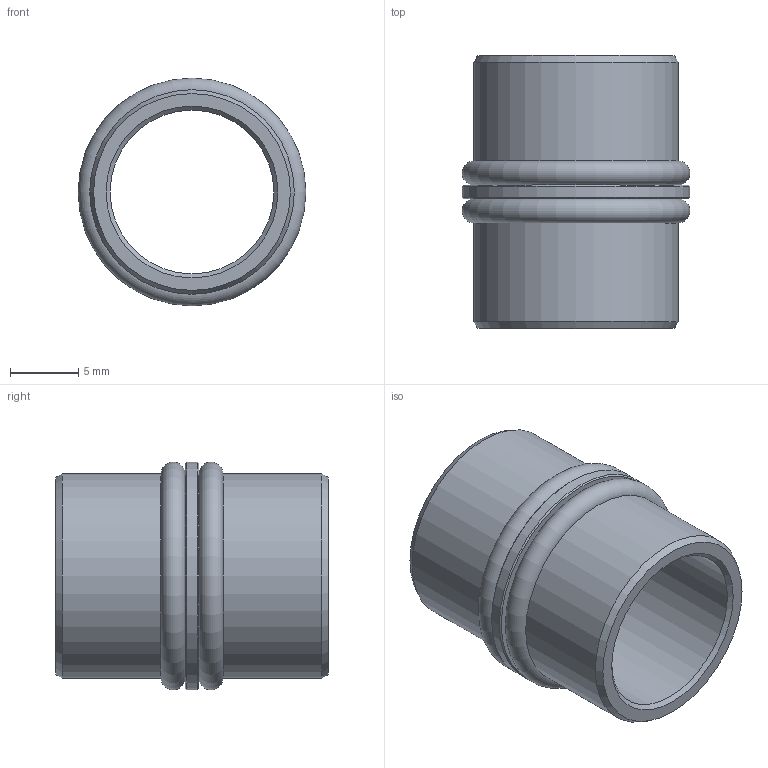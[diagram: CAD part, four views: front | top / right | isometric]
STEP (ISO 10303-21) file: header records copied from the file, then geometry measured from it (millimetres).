
FILE_DESCRIPTION(/* description */ ('BUSSOLA INTERBASE DI TENUTA'),/* implementation_level */ '2;1');
FILE_NAME(/* name */ 'I:\Area Tecnica\Disegni\VARIE-3D\Componenti\T400\T424\T424_30.stp',/* time_stamp */ '2015-09-23T13:45:55+02:00',/* author */ ('maniean1'),/* organization */ ('Pneumax S.p.A.'),/* preprocessor_version */ 'ST-DEVELOPER v15.2',/* originating_system */ 'Autodesk Inventor 2014',/* authorisation */ '');
FILE_SCHEMA (('AUTOMOTIVE_DESIGN { 1 0 10303 214 3 1 1 }'));
Length unit declared in the file: millimetre
Products named in the file (1): T424_30
Bounding box: 16.7 x 20 x 16.7 mm (x, y, z)
Volume: 1419.8 mm3; surface area: 1988.4 mm2
Topology: 1 solids, 1 shells, 16 faces, 28 edges, 16 vertices
Faces by surface type: cone 6, cylinder 4, plane 4, torus 2
Full cylindrical faces by diameter (mm): 12 x1, 15 x2, 16.7 x1
Entity records: 361 total; most frequent: DIRECTION 66, CARTESIAN_POINT 49, AXIS2_PLACEMENT_3D 33, EDGE_LOOP 32, ORIENTED_EDGE 32, FACE_BOUND 18, CIRCLE 16, VERTEX_POINT 16
